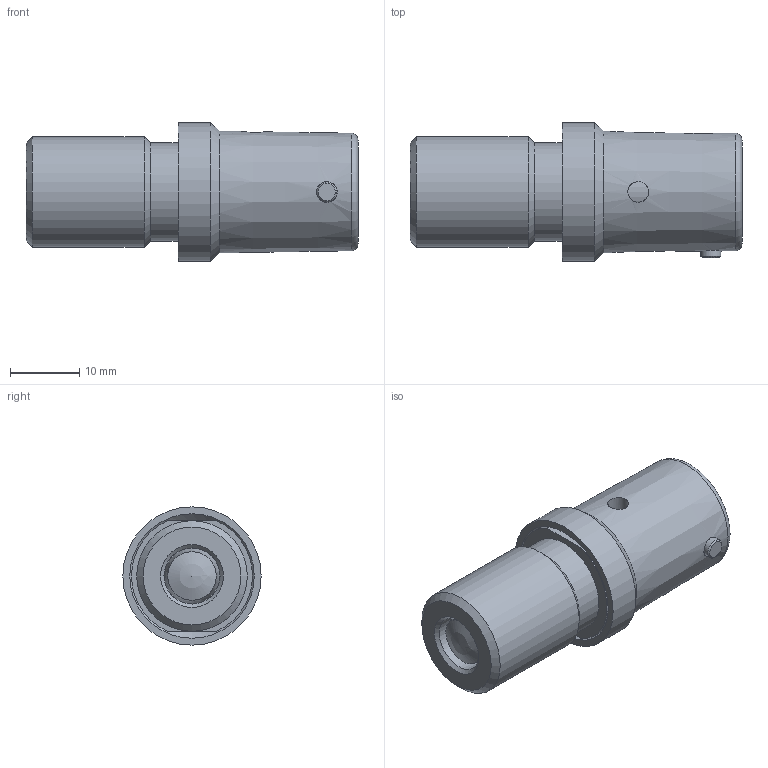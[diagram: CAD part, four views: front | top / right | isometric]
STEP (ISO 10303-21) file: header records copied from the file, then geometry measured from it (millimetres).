
FILE_DESCRIPTION( ( 'STEP AP203' ), '1' );
FILE_NAME( 'C:/Temp/Ganter_Step_05_03_2020/data/3_1/gn816_1/gn_816_1_b/Locking plunger GN 816.1-8-M16x1,5-B (deactivated).stp', '2020-03-12T08:56:19', ( 'License CC BY-ND 4.0' ), ( 'CADENAS' ), ' ', 'PARTsolutions', ' ' );
FILE_SCHEMA( ( 'CONFIG_CONTROL_DESIGN' ) );
Length unit declared in the file: millimetre
Products named in the file (3): Locking plunger GN 816.1-8-M16x1,5-B (deactivated); _GN 816.1-8-M16x1,5-B(0)-b2; _GN 816.1-8-M16x1,5-Bb1
Assembly tree (2 placements, depth 2):
  Locking plunger GN 816.1-8-M16x1,5-B (deactivated)
    _GN 816.1-8-M16x1,5-B(0)-b2
    _GN 816.1-8-M16x1,5-Bb1
Bounding box: 48 x 20 x 20 mm (x, y, z)
Volume: 8846.3 mm3; surface area: 6559.4 mm2
Topology: 2 solids, 2 shells, 43 faces, 85 edges, 52 vertices
Faces by surface type: cylinder 15, cone 13, plane 12, torus 2, sphere 1
Full cylindrical faces by diameter (mm): 2.9 x2, 3 x2, 7 x1, 8 x1, 8.1 x1, 11 x1, 11.1 x1, 14.2 x1, 16 x1, 18 x1, 20 x1
Entity records: 1348 total; most frequent: CARTESIAN_POINT 471, DIRECTION 172, ORIENTED_EDGE 102, EDGE_LOOP 84, AXIS2_PLACEMENT_3D 83, FACE_OUTER_BOUND 58, EDGE_CURVE 51, VERTEX_POINT 48
